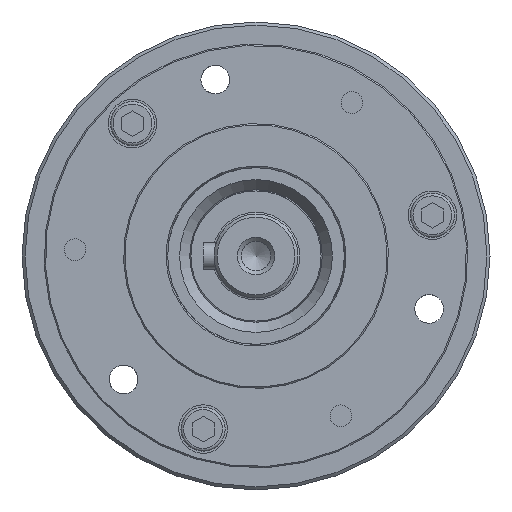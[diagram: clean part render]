
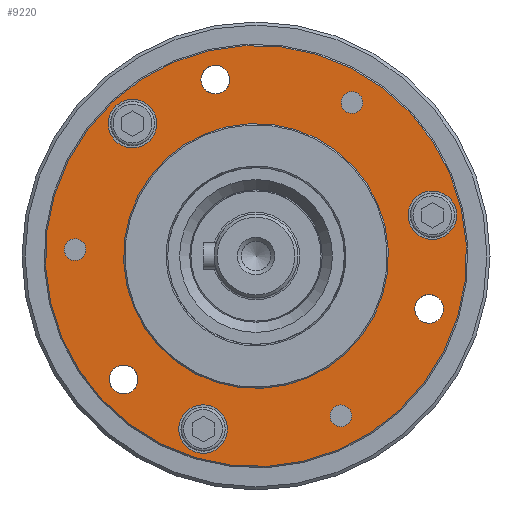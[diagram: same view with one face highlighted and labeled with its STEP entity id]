
A CAD part, left-side view. The second image highlights one B-rep face of the part: STEP entity #9220.
In plain terms, the highlighted planar face has unit normal (-1, 0, 0).
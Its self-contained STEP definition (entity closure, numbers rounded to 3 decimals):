
#2062=PLANE('',#9974);
#2489=FACE_BOUND('',#3592,.T.);
#2490=FACE_BOUND('',#3593,.T.);
#2491=FACE_BOUND('',#3594,.T.);
#2492=FACE_BOUND('',#3595,.T.);
#2493=FACE_BOUND('',#3596,.T.);
#2494=FACE_BOUND('',#3597,.T.);
#2495=FACE_BOUND('',#3598,.T.);
#2496=FACE_BOUND('',#3599,.T.);
#2497=FACE_BOUND('',#3600,.T.);
#2498=FACE_BOUND('',#3601,.T.);
#2891=FACE_OUTER_BOUND('',#3591,.T.);
#3591=EDGE_LOOP('',(#7476));
#3592=EDGE_LOOP('',(#7477));
#3593=EDGE_LOOP('',(#7478));
#3594=EDGE_LOOP('',(#7479));
#3595=EDGE_LOOP('',(#7480));
#3596=EDGE_LOOP('',(#7481));
#3597=EDGE_LOOP('',(#7482));
#3598=EDGE_LOOP('',(#7483));
#3599=EDGE_LOOP('',(#7484));
#3600=EDGE_LOOP('',(#7485));
#3601=EDGE_LOOP('',(#7486));
#4157=CIRCLE('',#9735,3.25);
#4245=CIRCLE('',#9972,47.7);
#4247=CIRCLE('',#9975,30.);
#4248=CIRCLE('',#9976,2.459);
#4249=CIRCLE('',#9977,2.459);
#4250=CIRCLE('',#9978,2.459);
#4251=CIRCLE('',#9979,5.5);
#4252=CIRCLE('',#9980,5.5);
#4253=CIRCLE('',#9981,5.5);
#4254=CIRCLE('',#9982,3.25);
#4255=CIRCLE('',#9983,3.25);
#4635=VERTEX_POINT('',#13452);
#4921=VERTEX_POINT('',#14922);
#4923=VERTEX_POINT('',#14927);
#4924=VERTEX_POINT('',#14929);
#4925=VERTEX_POINT('',#14931);
#4926=VERTEX_POINT('',#14933);
#4927=VERTEX_POINT('',#14935);
#4928=VERTEX_POINT('',#14937);
#4929=VERTEX_POINT('',#14939);
#4930=VERTEX_POINT('',#14941);
#4931=VERTEX_POINT('',#14943);
#5507=EDGE_CURVE('',#4635,#4635,#4157,.T.);
#5906=EDGE_CURVE('',#4921,#4921,#4245,.T.);
#5908=EDGE_CURVE('',#4923,#4923,#4247,.T.);
#5909=EDGE_CURVE('',#4924,#4924,#4248,.T.);
#5910=EDGE_CURVE('',#4925,#4925,#4249,.T.);
#5911=EDGE_CURVE('',#4926,#4926,#4250,.T.);
#5912=EDGE_CURVE('',#4927,#4927,#4251,.T.);
#5913=EDGE_CURVE('',#4928,#4928,#4252,.T.);
#5914=EDGE_CURVE('',#4929,#4929,#4253,.T.);
#5915=EDGE_CURVE('',#4930,#4930,#4254,.T.);
#5916=EDGE_CURVE('',#4931,#4931,#4255,.T.);
#7476=ORIENTED_EDGE('',*,*,#5906,.F.);
#7477=ORIENTED_EDGE('',*,*,#5908,.T.);
#7478=ORIENTED_EDGE('',*,*,#5909,.T.);
#7479=ORIENTED_EDGE('',*,*,#5910,.T.);
#7480=ORIENTED_EDGE('',*,*,#5911,.T.);
#7481=ORIENTED_EDGE('',*,*,#5912,.T.);
#7482=ORIENTED_EDGE('',*,*,#5913,.T.);
#7483=ORIENTED_EDGE('',*,*,#5914,.T.);
#7484=ORIENTED_EDGE('',*,*,#5507,.T.);
#7485=ORIENTED_EDGE('',*,*,#5915,.T.);
#7486=ORIENTED_EDGE('',*,*,#5916,.T.);
#9220=ADVANCED_FACE('',(#2891,#2489,#2490,#2491,#2492,#2493,#2494,#2495,
#2496,#2497,#2498),#2062,.T.);
#9735=AXIS2_PLACEMENT_3D('',#13453,#10945,#10946);
#9972=AXIS2_PLACEMENT_3D('',#14923,#11650,#11651);
#9974=AXIS2_PLACEMENT_3D('',#14926,#11654,#11655);
#9975=AXIS2_PLACEMENT_3D('',#14928,#11656,#11657);
#9976=AXIS2_PLACEMENT_3D('',#14930,#11658,#11659);
#9977=AXIS2_PLACEMENT_3D('',#14932,#11660,#11661);
#9978=AXIS2_PLACEMENT_3D('',#14934,#11662,#11663);
#9979=AXIS2_PLACEMENT_3D('',#14936,#11664,#11665);
#9980=AXIS2_PLACEMENT_3D('',#14938,#11666,#11667);
#9981=AXIS2_PLACEMENT_3D('',#14940,#11668,#11669);
#9982=AXIS2_PLACEMENT_3D('',#14942,#11670,#11671);
#9983=AXIS2_PLACEMENT_3D('',#14944,#11672,#11673);
#10945=DIRECTION('center_axis',(1.,0.,0.));
#10946=DIRECTION('ref_axis',(0.,-0.225,-0.974));
#11650=DIRECTION('center_axis',(1.,0.,0.));
#11651=DIRECTION('ref_axis',(0.,0.974,-0.225));
#11654=DIRECTION('center_axis',(-1.,0.,0.));
#11655=DIRECTION('ref_axis',(0.,-0.225,-0.974));
#11656=DIRECTION('center_axis',(1.,0.,0.));
#11657=DIRECTION('ref_axis',(0.,-0.974,0.225));
#11658=DIRECTION('center_axis',(1.,0.,0.));
#11659=DIRECTION('ref_axis',(0.,-0.225,-0.974));
#11660=DIRECTION('center_axis',(1.,0.,0.));
#11661=DIRECTION('ref_axis',(0.,-0.225,-0.974));
#11662=DIRECTION('center_axis',(1.,0.,0.));
#11663=DIRECTION('ref_axis',(0.,-0.225,-0.974));
#11664=DIRECTION('center_axis',(1.,0.,0.));
#11665=DIRECTION('ref_axis',(0.,-0.225,-0.974));
#11666=DIRECTION('center_axis',(1.,0.,0.));
#11667=DIRECTION('ref_axis',(0.,-0.225,-0.974));
#11668=DIRECTION('center_axis',(1.,0.,0.));
#11669=DIRECTION('ref_axis',(0.,-0.225,-0.974));
#11670=DIRECTION('center_axis',(1.,0.,0.));
#11671=DIRECTION('ref_axis',(0.,-0.225,-0.974));
#11672=DIRECTION('center_axis',(1.,0.,0.));
#11673=DIRECTION('ref_axis',(0.,-0.225,-0.974));
#13452=CARTESIAN_POINT('',(-14.5,8.492,36.782));
#13453=CARTESIAN_POINT('Origin',(-14.5,9.223,39.949));
#14922=CARTESIAN_POINT('',(-14.5,-46.477,10.73));
#14923=CARTESIAN_POINT('Origin',(-14.5,0.,0.));
#14926=CARTESIAN_POINT('Origin',(-14.5,-38.,8.773));
#14927=CARTESIAN_POINT('',(-14.5,-29.231,6.749));
#14928=CARTESIAN_POINT('Origin',(-14.5,0.,0.));
#14929=CARTESIAN_POINT('',(-14.5,-19.801,-38.596));
#14930=CARTESIAN_POINT('Origin',(-14.5,-19.248,-36.201));
#14931=CARTESIAN_POINT('',(-14.5,-22.28,32.374));
#14932=CARTESIAN_POINT('Origin',(-14.5,-21.727,34.77));
#14933=CARTESIAN_POINT('',(-14.5,40.422,-0.965));
#14934=CARTESIAN_POINT('Origin',(-14.5,40.975,1.431));
#14935=CARTESIAN_POINT('',(-14.5,26.725,24.626));
#14936=CARTESIAN_POINT('Origin',(-14.5,27.962,29.986));
#14937=CARTESIAN_POINT('',(-14.5,-41.186,3.864));
#14938=CARTESIAN_POINT('Origin',(-14.5,-39.949,9.223));
#14939=CARTESIAN_POINT('',(-14.5,10.75,-44.568));
#14940=CARTESIAN_POINT('Origin',(-14.5,11.987,-39.208));
#14941=CARTESIAN_POINT('',(-14.5,-39.94,-15.154));
#14942=CARTESIAN_POINT('Origin',(-14.5,-39.208,-11.987));
#14943=CARTESIAN_POINT('',(-14.5,29.254,-31.129));
#14944=CARTESIAN_POINT('Origin',(-14.5,29.986,-27.962));
